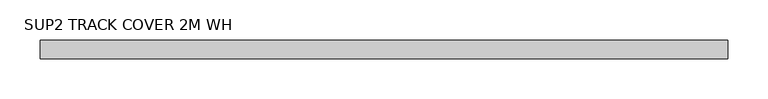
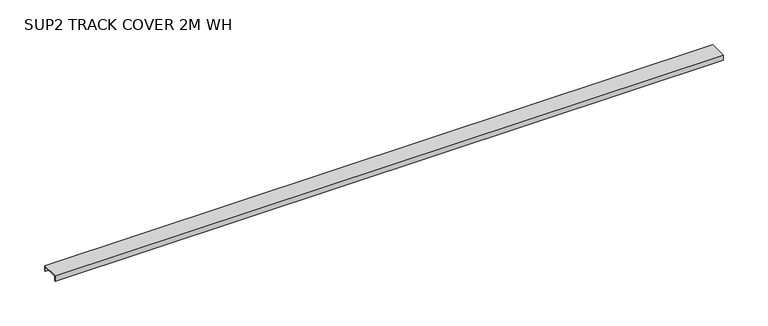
"""IFC4 building model written with IfcOpenShell, lengths in millimetres: light fixture geometry, Zumtobel SUP2 TRACK COVER 2M WH : SUP2 TRACK COVER 2M WH."""

from ifc_helpers import new_model, si_unit, frame, origin, place, context, project, spatial, polyline, outline, extrude, source, transform, mapped, element, save


def sup2_track_cover_2m_wh_9b0ccd4b(model_context):
    return source(origin(), model_context, "Body", "SweptSolid", [
        extrude(outline(polyline([(11.5, 0.0), (11.5, -7.0), (10.5, -7.0), (10.5, -1.0), (-10.5, -1.0), (-10.5, -7.0), (-11.5, -7.0), (-11.5, 0.0), (11.5, 0.0)])), frame((399.5000048, 0.0, 0.0), z_axis=(1.0, 0.0, 0.0), x_axis=(0.0, 1.0, 0.0)), (0.0, 0.0, 1.0), 857.2994822),
    ])


if __name__ == "__main__":
    model = new_model("IFC4")
    model_context = context("Model", 3, world=origin())
    ifc_project = project(units=[si_unit("LENGTHUNIT", "METRE", prefix="MILLI")], contexts=[model_context])
    site = spatial("IfcSite", under=ifc_project)
    building = spatial("IfcBuilding", under=site)
    placement = place(None, origin())
    sup2_track_cover_2m_wh_shape = sup2_track_cover_2m_wh_9b0ccd4b(model_context)
    element("IfcLightFixture", 1, ObjectType="Zumtobel SUP2 TRACK COVER 2M WH : SUP2 TRACK COVER 2M WH", at=placement, inside=building, context=model_context, shape_type="MappedRepresentation", body=[
        mapped(sup2_track_cover_2m_wh_shape, transform((0.0, 0.0, 0.0), x_axis=(1.0, 0.0, 0.0), y_axis=(0.0, 1.0, 0.0), z_axis=(0.0, 0.0, 1.0))),
    ])
    save(model, "model.ifc")
